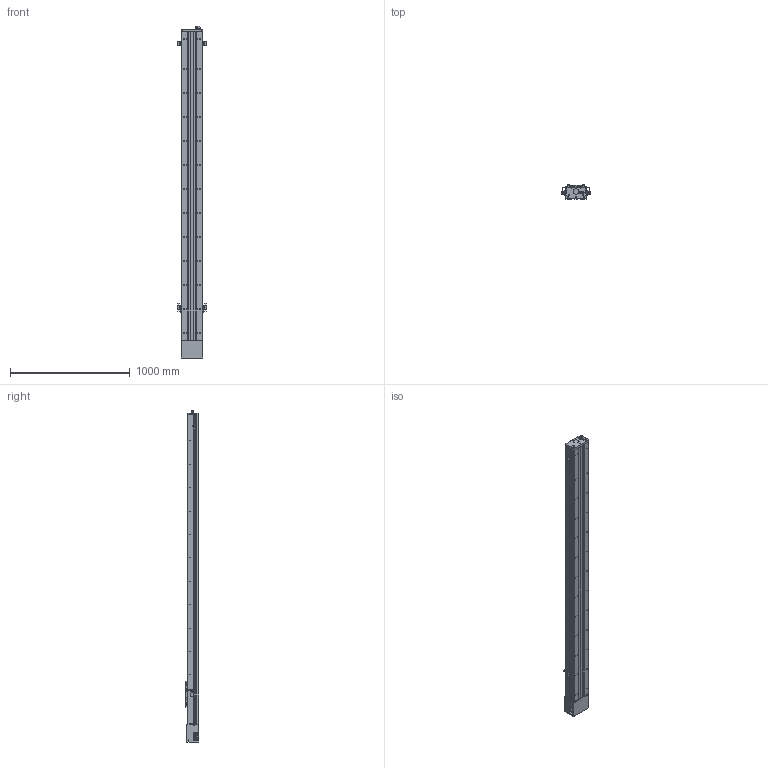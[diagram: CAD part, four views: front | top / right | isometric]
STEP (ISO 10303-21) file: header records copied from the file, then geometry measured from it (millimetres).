
FILE_DESCRIPTION (( 'STEP AP203' ), '1' );
FILE_NAME ('JDBS-180-P -S2200L-1.STEP', '2012-09-11T03:51:39', ( 'USER' ), ( 'SHARE' ), 'SwSTEP 2.0', 'SolidWorks 2007', '' );
FILE_SCHEMA (( 'CONFIG_CONTROL_DESIGN' ));
Products named in the file (1): JDBS-180-P  -S2200L-1
Bounding box: 250 x 116.5 x 2768.9 mm (x, y, z)
Volume: 13724535.7 mm3; surface area: 4481306.4 mm2
Topology: 27 solids, 27 shells, 2003 faces, 5671 edges, 3742 vertices
Faces by surface type: cylinder 1175, plane 806, cone 12, sphere 8, torus 2
Entity records: 69708 total; most frequent: CARTESIAN_POINT 14988, DIRECTION 11694, ORIENTED_EDGE 11326, EDGE_CURVE 5663, AXIS2_PLACEMENT_3D 4366, VERTEX_POINT 3742, VECTOR 2962, LINE 2962
